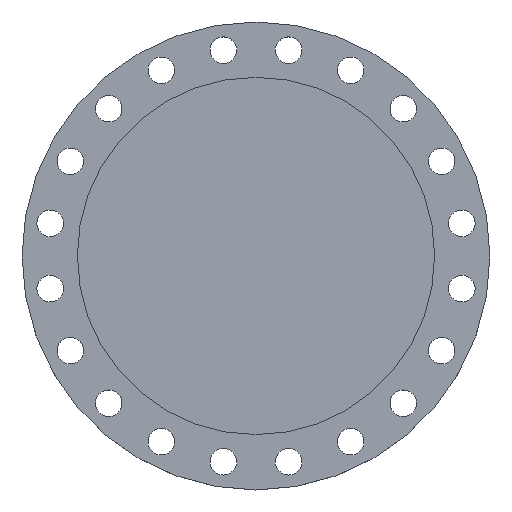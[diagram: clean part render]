
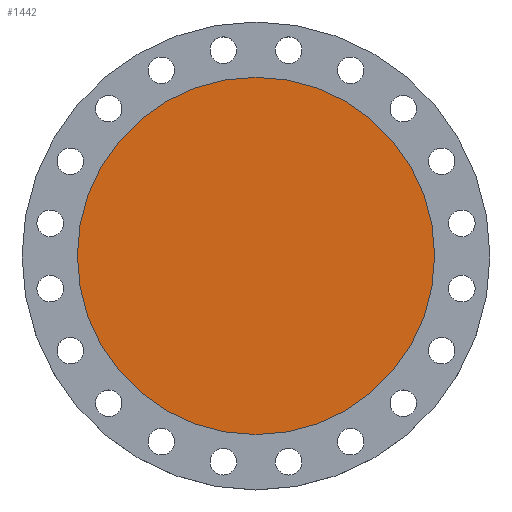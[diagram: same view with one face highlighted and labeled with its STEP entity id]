
A CAD part, top view. The second image highlights one B-rep face of the part: STEP entity #1442.
In plain terms, the highlighted planar face has unit normal (0, 0, 1).
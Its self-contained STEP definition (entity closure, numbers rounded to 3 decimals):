
#161 = DIRECTION ( 'NONE',  ( 1., 0., 0. ) ) ;
#175 = DIRECTION ( 'NONE',  ( 0., 0., 1. ) ) ;
#187 = CARTESIAN_POINT ( 'NONE',  ( -261.5, 0., 0. ) ) ;
#212 = AXIS2_PLACEMENT_3D ( 'NONE', #282, #175, #161 ) ;
#244 = EDGE_CURVE ( 'NONE', #971, #1127, #1058, .T. ) ;
#281 = DIRECTION ( 'NONE',  ( -1., 0., 0. ) ) ;
#282 = CARTESIAN_POINT ( 'NONE',  ( 0., 0., 0. ) ) ;
#284 = DIRECTION ( 'NONE',  ( 0., 0., -1. ) ) ;
#285 = CARTESIAN_POINT ( 'NONE',  ( 0., 0., 0. ) ) ;
#357 = CARTESIAN_POINT ( 'NONE',  ( 261.5, 0., 0. ) ) ;
#405 = PLANE ( 'NONE',  #212 ) ;
#434 = AXIS2_PLACEMENT_3D ( 'NONE', #646, #644, #643 ) ;
#441 = FACE_OUTER_BOUND ( 'NONE', #1525, .T. ) ;
#643 = DIRECTION ( 'NONE',  ( -1., 0., 0. ) ) ;
#644 = DIRECTION ( 'NONE',  ( 0., 0., -1. ) ) ;
#646 = CARTESIAN_POINT ( 'NONE',  ( 0., 0., 0. ) ) ;
#899 = CIRCLE ( 'NONE', #901, 261.5 ) ;
#901 = AXIS2_PLACEMENT_3D ( 'NONE', #285, #284, #281 ) ;
#936 = ORIENTED_EDGE ( 'NONE', *, *, #244, .F. ) ;
#946 = ORIENTED_EDGE ( 'NONE', *, *, #1057, .F. ) ;
#971 = VERTEX_POINT ( 'NONE', #357 ) ;
#1057 = EDGE_CURVE ( 'NONE', #1127, #971, #899, .T. ) ;
#1058 = CIRCLE ( 'NONE', #434, 261.5 ) ;
#1127 = VERTEX_POINT ( 'NONE', #187 ) ;
#1442 = ADVANCED_FACE ( 'NONE', ( #441 ), #405, .T. ) ;
#1525 = EDGE_LOOP ( 'NONE', ( #946, #936 ) ) ;
